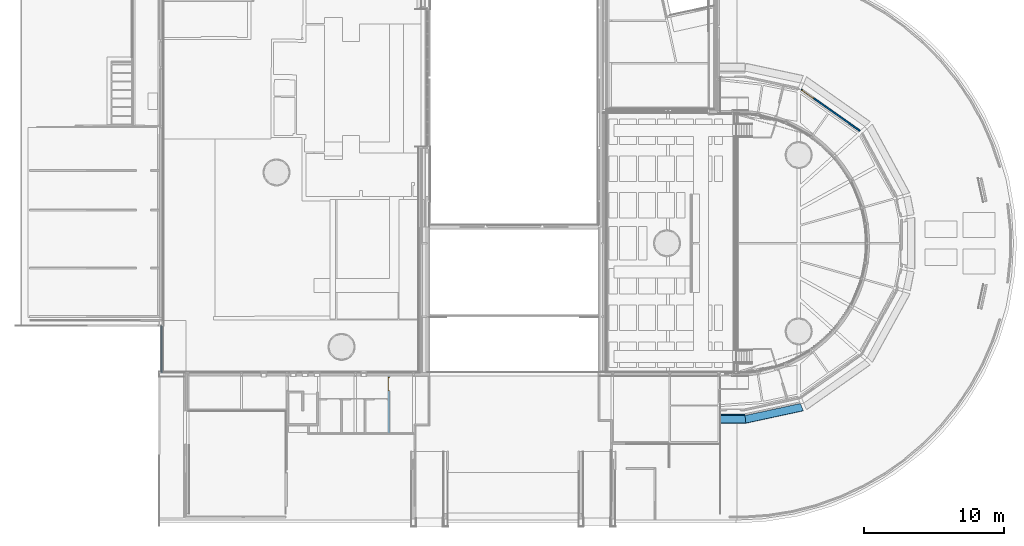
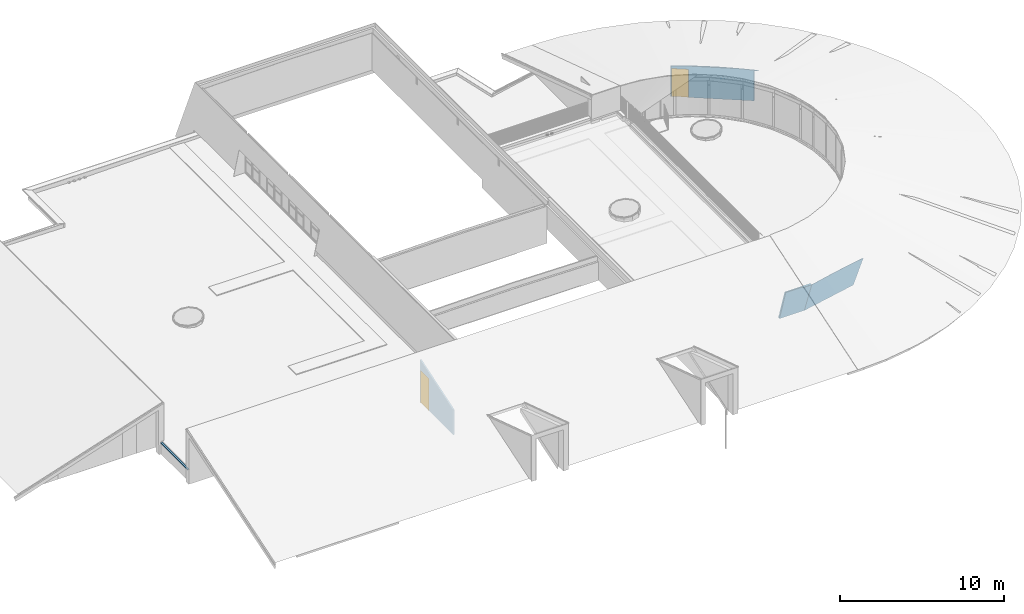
# One storey, part 48 of 66: 5 walls, 2 doors, 3 openings, plus 1 element that does not belong to this part.
"""IFC2X3 building model written with IfcOpenShell, lengths in millimetres."""

from ifc_helpers import new_model, entity, si_unit, converted_unit, derived_unit, direction, frame, frame_2d, origin, place, context, subcontext, project, spatial, rectangle, extrude, clip, halfspace, faceted_brep, source, transform, mapped, material, material_list, layer, layer_set, layer_usage, type_object, type_shapes, element, fill, save


model = new_model("IFC2X3")

# Units and contexts
model_context = context("Model", 3, precision=0.01, world=origin(), true_north=direction((6.12303176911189e-17, 1.0)))
body_context = subcontext(model_context, "Body", "Model", "MODEL_VIEW")
ifc_project = project(units=[si_unit("LENGTHUNIT", "METRE", prefix="MILLI"), si_unit("AREAUNIT", "SQUARE_METRE"), si_unit("VOLUMEUNIT", "CUBIC_METRE"), converted_unit("PLANEANGLEUNIT", "DEGREE", entity("IfcRatioMeasure", 0.0174532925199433), si_unit("PLANEANGLEUNIT", "RADIAN"), dimensions=[0, 0, 0, 0, 0, 0, 0]), si_unit("MASSUNIT", "GRAM", prefix="KILO"), derived_unit("MASSDENSITYUNIT", [(si_unit("MASSUNIT", "GRAM", prefix="KILO"), 1), (si_unit("LENGTHUNIT", "METRE"), -3)]), derived_unit("MOMENTOFINERTIAUNIT", [(si_unit("LENGTHUNIT", "METRE"), 4)]), si_unit("TIMEUNIT", "SECOND"), si_unit("FREQUENCYUNIT", "HERTZ"), si_unit("THERMODYNAMICTEMPERATUREUNIT", "DEGREE_CELSIUS"), derived_unit("THERMALTRANSMITTANCEUNIT", [(si_unit("MASSUNIT", "GRAM", prefix="KILO"), 1), (si_unit("THERMODYNAMICTEMPERATUREUNIT", "KELVIN"), -1), (si_unit("TIMEUNIT", "SECOND"), -3)]), derived_unit("VOLUMETRICFLOWRATEUNIT", [(si_unit("LENGTHUNIT", "METRE"), 3), (si_unit("TIMEUNIT", "SECOND"), -1)]), si_unit("ELECTRICCURRENTUNIT", "AMPERE"), si_unit("ELECTRICVOLTAGEUNIT", "VOLT"), si_unit("POWERUNIT", "WATT"), si_unit("FORCEUNIT", "NEWTON", prefix="KILO"), si_unit("ILLUMINANCEUNIT", "LUX"), si_unit("LUMINOUSFLUXUNIT", "LUMEN"), si_unit("LUMINOUSINTENSITYUNIT", "CANDELA"), derived_unit("USERDEFINED", [(si_unit("MASSUNIT", "GRAM", prefix="KILO"), -1), (si_unit("LENGTHUNIT", "METRE"), -2), (si_unit("TIMEUNIT", "SECOND"), 3), (si_unit("LUMINOUSFLUXUNIT", "LUMEN"), 1)]), derived_unit("LINEARVELOCITYUNIT", [(si_unit("LENGTHUNIT", "METRE"), 1), (si_unit("TIMEUNIT", "SECOND"), -1)]), si_unit("PRESSUREUNIT", "PASCAL"), derived_unit("USERDEFINED", [(si_unit("LENGTHUNIT", "METRE"), -2), (si_unit("MASSUNIT", "GRAM", prefix="KILO"), 1), (si_unit("TIMEUNIT", "SECOND"), -2)]), derived_unit("LINEARFORCEUNIT", [(si_unit("MASSUNIT", "GRAM", prefix="KILO"), 1), (si_unit("LENGTHUNIT", "METRE"), 1), (si_unit("TIMEUNIT", "SECOND"), -2), (si_unit("LENGTHUNIT", "METRE"), -1)]), derived_unit("PLANARFORCEUNIT", [(si_unit("MASSUNIT", "GRAM", prefix="KILO"), 1), (si_unit("LENGTHUNIT", "METRE"), 1), (si_unit("TIMEUNIT", "SECOND"), -2), (si_unit("LENGTHUNIT", "METRE"), -2)])], contexts=[model_context])

# Site, building, storey
site_placement = place(None, origin())
site = spatial("IfcSite", under=ifc_project, at=site_placement, Name="Default", CompositionType="ELEMENT")
building_placement = place(site_placement, origin())
building = spatial("IfcBuilding", under=site, at=building_placement, Name="-", CompositionType="ELEMENT")
storey_placement = place(building_placement, frame((0.0, 0.0, 3070.0)))
storey = spatial("IfcBuildingStorey", under=building, at=storey_placement, Name="01 eerste verdieping", CompositionType="ELEMENT", Elevation=3070.00000000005)

# Wall, openings, door
ifc_material_1 = material(Name="NLRS_f7_gipsplaat_gen")
ifc_layer_1 = layer(ifc_material_1, 12.5)
ifc_material_2 = material(Name="NLRS_m1_isolatie")
ifc_layer_2 = layer(ifc_material_2, 75.0)
ifc_layer_3 = layer(ifc_material_1, 12.5)
ifc_layer_set_1 = layer_set([ifc_layer_1, ifc_layer_2, ifc_layer_3], Name="Basic Wall:NLRS_21_WA_Metalstud 100mm")
ifc_layer_usage = layer_usage(ifc_layer_set_1, "AXIS2", "NEGATIVE", 50.0)
wall_type_1 = type_object("IfcWallType", Name="Basic Wall:NLRS_21_WA_Metalstud 100mm", PredefinedType="STANDARD", material=ifc_layer_set_1)
wall_1_placement = place(storey_placement, frame((25872.6948343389, 10159.624095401, 0.0), z_axis=(0.0, 0.0, 1.0), x_axis=(0.0, -1.0, 0.0)))
wall_1 = element("IfcWallStandardCase", 1, at=wall_1_placement, inside=storey, type_object=wall_type_1, material=ifc_layer_usage, Name="Basic Wall:NLRS_21_WA_Metalstud 100mm", ObjectType="Basic Wall:NLRS_21_WA_Metalstud 100mm", context=body_context, shape_type="Clipping", body=[
    clip(extrude(rectangle(XDim=4041.50000000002, YDim=100.000000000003, at=frame_2d((2020.75000000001, 1.4210854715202e-14), x_axis=(-1.0, 0.0))), origin(), (0.0, 0.0, 1.0), 3148.16764470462), halfspace(frame((0.0, -50.0, 3148.16764470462), z_axis=(0.309016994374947, 0.0, 0.951056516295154), x_axis=(0.0, 1.0, 0.0)), False)),
])
opening_1_placement = place(wall_1_placement, origin())
element("IfcOpeningElement", 2, at=opening_1_placement, cuts=wall_1, Name="Basic Wall:NLRS_21_WA_Metalstud 100mm", ObjectType="Opening", context=body_context, shape_type="SweptSolid", body=[
    extrude(rectangle(XDim=2462.00000000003, YDim=100.0, at=frame_2d((5.43565192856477e-13, 2.27373675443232e-13), x_axis=(0.0, 1.0))), frame((1650.0, -1084.0, 1161.0), z_axis=(0.0, 1.0, 0.0), x_axis=(-1.0, 0.0, 0.0)), (0.0, 0.0, 1.0), 1034.0),
])
opening_2_placement = place(wall_1_placement, frame((1079.50000000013, 50.0, -70.0)))
opening_2 = element("IfcOpeningElement", 3, at=opening_2_placement, cuts=wall_1, Name="AL_32.i_Binnenkozijn-enkeledeur_Linksdraaiend:Merk a.sp brandwerend:1", ObjectType="Opening", context=body_context, shape_type="SweptSolid", body=[
    extrude(rectangle(XDim=2462.00000000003, YDim=1017.99999999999, at=frame_2d((1231.00000000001, 508.999999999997), x_axis=(1.0, 0.0))), frame((0.0, 0.0, 0.0), z_axis=(0.0, -1.0, 0.0), x_axis=(0.0, 0.0, 1.0)), (0.0, 0.0, 1.0), 100.0),
])
ifc_material_3 = material(Name="NLRS_i3_hout_Loofhout (hardhout) RAL 9002")
ifc_material_4 = material(Name="<Unnamed>")
ifc_material_5 = material(Name="31_Glas")
ifc_material_list_1 = material_list([ifc_material_4, ifc_material_5, ifc_material_4, ifc_material_3])
door_style_1 = type_object("IfcDoorStyle", Name="AL_32.i_Binnenkozijn-enkeledeur_Linksdraaiend:Merk a.sp brandwerend", ConstructionType="NOTDEFINED", OperationType="SINGLE_SWING_LEFT", ParameterTakesPrecedence=False, Sizeable=False, material=ifc_material_list_1)
shared_shape_1 = source(origin(), body_context, "Body", "Brep", [
    faceted_brep([(966.0, 40.0, 95.0), (52.0, 40.0, 95.0), (52.0, 40.0, 2410.0), (966.0, 40.0, 2410.0), (966.0, 0.0, 95.0), (52.0, 0.0, 95.0), (52.0, 0.0, 2410.0), (966.0, 0.0, 2410.0)], [[[0, 1, 2, 3]], [[1, 0, 4, 5]], [[2, 1, 5, 6]], [[0, 3, 7, 4]], [[4, 7, 6, 5]], [[3, 2, 6, 7]]]),
    faceted_brep([(968.0, -7.0, 70.0), (968.0, 42.0, 70.0), (951.0, 42.0, 70.0), (951.0, 107.0, 70.0), (1018.0, 107.0, 70.0), (1018.0, 77.0, 70.0), (1009.0, 77.0, 70.0), (1009.0, 23.0, 70.0), (1018.0, 23.0, 70.0), (1018.0, -7.0, 70.0), (968.0, -7.0, 2412.0), (968.0, 42.0, 2412.0), (50.0, 42.0, 2412.0), (50.0, 42.0, 70.0), (67.0, 42.0, 70.0), (67.0, 42.0, 2395.0), (951.0, 42.0, 2395.0), (951.0, 107.0, 2395.0), (67.0, 107.0, 2395.0), (67.0, 107.0, 70.0), (0.0, 107.0, 70.0), (0.0, 107.0, 2462.0), (1018.0, 107.0, 2462.0), (1018.0, 77.0, 2462.0), (0.0, 77.0, 2462.0), (0.0, 77.0, 70.0), (9.0, 77.0, 70.0), (9.0, 77.0, 2453.0), (1009.0, 77.0, 2453.0), (1009.0, 23.0, 2453.0), (9.0, 23.0, 2453.0), (9.0, 23.0, 70.0), (0.0, 23.0, 70.0), (0.0, 23.0, 2462.0), (1018.0, 23.0, 2462.0), (1018.0, -7.0, 2462.0), (0.0, -7.0, 2462.0), (0.0, -7.0, 70.0), (50.0, -7.0, 70.0), (50.0, -7.0, 2412.0)], [[[0, 1, 2, 3, 4, 5, 6, 7, 8, 9]], [[1, 0, 10, 11]], [[2, 1, 11, 12, 13, 14, 15, 16]], [[3, 2, 16, 17]], [[4, 3, 17, 18, 19, 20, 21, 22]], [[5, 4, 22, 23]], [[6, 5, 23, 24, 25, 26, 27, 28]], [[7, 6, 28, 29]], [[8, 7, 29, 30, 31, 32, 33, 34]], [[9, 8, 34, 35]], [[0, 9, 35, 36, 37, 38, 39, 10]], [[38, 37, 32, 31, 26, 25, 20, 19, 14, 13]], [[36, 33, 32, 37]], [[30, 27, 26, 31]], [[24, 21, 20, 25]], [[18, 15, 14, 19]], [[12, 39, 38, 13]], [[17, 16, 15, 18]], [[23, 22, 21, 24]], [[35, 34, 33, 36]], [[11, 10, 39, 12]], [[29, 28, 27, 30]]]),
])
type_shapes(door_style_1, [shared_shape_1])
door_1_placement = place(opening_2_placement, frame((-1018.0, -100.0, 0.0)))
door_1 = element("IfcDoor", 4, at=door_1_placement, inside=storey, type_object=door_style_1, material=ifc_material_3, Name="AL_32.i_Binnenkozijn-enkeledeur_Linksdraaiend:Merk a.sp brandwerend", ObjectType="AL_32.i_Binnenkozijn-enkeledeur_Linksdraaiend:Merk a.sp brandwerend", OverallHeight=2462.00000000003, OverallWidth=1018.0, context=body_context, shape_type="MappedRepresentation", body=[
    mapped(shared_shape_1, transform((0.0, 0.0, 0.0), scale=1.0)),
])
fill(opening_2, door_1)

# Wall, opening, door
wall_2_placement = place(storey_placement, frame((55228.6633531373, 30574.312870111, 100.0), z_axis=(0.0, 0.0, 1.0), x_axis=(0.817056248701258, -0.576557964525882, 0.0)))
wall_2 = element("IfcWall", 5, at=wall_2_placement, inside=storey, type_object=wall_type_1, Name="Basic Wall:NLRS_21_WA_Metalstud 100mm", ObjectType="Basic Wall:NLRS_21_WA_Metalstud 100mm", context=body_context, shape_type="Brep", body=[
    faceted_brep([(5114.58053842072, -50.0, 0.0), (1096.76009486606, -50.0, 0.0), (1096.76009486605, 50.0, 0.0), (5137.62813281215, 50.0, 0.0), (62.7600948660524, -50.0, 0.0), (24.8491400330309, -50.0, 0.0), (1.723089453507, 50.0, 0.0), (62.7600948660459, 50.0, 0.0), (3286.97250102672, 36.6259947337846, 2336.06384800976), (3426.71931756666, 28.6295193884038, 2336.06384800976), (3500.30518781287, 50.0, 2322.50727222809), (3276.77644069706, 50.0, 2329.28556011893), (3053.24769358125, 50.0, 2336.06384800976), (3890.8650110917, 50.0, 2310.66393236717), (3798.68176493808, -10.6852403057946, 2336.06384800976), (4170.64421230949, -50.0, 2336.06384800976), (4453.2831535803, -50.0, 2321.31567404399), (4735.92209485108, -50.0, 2306.56750007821), (4281.42483437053, 50.0, 2298.82059250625), (4772.04443683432, 50.0, 2269.28134697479), (5300.70005098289, -50.0, 2268.57281640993), (5382.86838145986, -50.0, 2262.3493271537), (5330.10915461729, 16.6711010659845, 2245.29138279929), (5018.31107291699, -50.0, 2287.57015824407), (5262.66403929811, 50.0, 2239.74210144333), (5465.02630590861, -50.0, 2255.95235038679), (62.7600948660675, -50.0, 2092.0), (1096.76009486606, -50.0, 2092.0), (5114.58053842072, -50.0, 2230.6035447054), (5465.02630590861, -50.0, 2230.6035447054), (977.824035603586, -50.0, 2336.06384800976), (434.407815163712, -50.0, 2307.86837401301), (186.962887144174, -50.0, 2291.78879470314), (93.481443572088, -50.0, 2285.71414084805), (46.7407217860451, -50.0, 2282.6768139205), (23.3703608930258, -50.0, 2281.15815045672), (11.6851804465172, -50.0, 2280.39881872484), (0.0, -50.0, 2279.63948699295), (24.8491400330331, -50.0, 2279.63948699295), (5137.62813281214, 50.0, 2230.6035447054), (1096.76009486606, 50.0, 2092.0), (62.760094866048, 50.0, 2092.0), (1.72308945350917, 50.0, 2248.04060948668), (200.324541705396, 50.0, 2258.90412835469), (398.925993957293, 50.0, 2269.7676472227), (582.951126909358, 50.0, 2279.83383999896), (1164.17916436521, 50.0, 2311.62707051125), (1405.38812349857, 50.0, 2317.95801318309), (1646.59708263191, 50.0, 2324.28895585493), (2095.22055433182, 50.0, 2336.06384800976), (5262.66403929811, 50.0, 2230.6035447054), (1628.06774315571, 15.7397319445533, 2336.06384800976), (1349.1554832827, -4.71526384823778, 2336.06384800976), (23.6362438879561, -44.755281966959, 2279.63948699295), (11.81678009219, -47.371593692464, 2279.63948699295), (12.6796669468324, 2.62235782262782, 2263.84005180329)], [[[0, 1, 2, 3]], [[4, 5, 6, 7]], [[8, 9, 10, 11, 12]], [[13, 14, 15]], [[16, 17, 18, 15]], [[18, 17, 19]], [[9, 14, 10]], [[20, 21, 22]], [[19, 17, 23, 20]], [[22, 24, 20]], [[25, 22, 21]], [[24, 19, 20]], [[10, 14, 13]], [[15, 18, 13]], [[5, 4, 26, 27, 1, 0, 28, 29, 25, 21, 20, 23, 17, 16, 15, 30, 31, 32, 33, 34, 35, 36, 37, 38]], [[39, 3, 2, 40, 41, 7, 6, 42, 43, 44, 45, 46, 47, 48, 49, 12, 11, 10, 13, 18, 19, 24, 50]], [[30, 15, 14, 9, 8, 12, 49, 51, 52]], [[51, 49, 48, 47, 46, 52]], [[36, 53, 54]], [[44, 33, 32]], [[31, 46, 45]], [[44, 32, 45]], [[44, 43, 33]], [[32, 31, 45]], [[53, 33, 43]], [[30, 52, 46]], [[30, 46, 31]], [[34, 33, 53, 36, 35]], [[42, 55, 43]], [[53, 43, 55]], [[54, 37, 36]], [[50, 29, 28, 39]], [[0, 3, 39, 28]], [[25, 29, 50, 24, 22]], [[38, 37, 54, 53]], [[53, 55, 42, 6, 5, 38]], [[4, 7, 41, 26]], [[26, 41, 40, 27]], [[27, 40, 2, 1]]]),
])
opening_3_placement = place(wall_2_placement, frame((1096.76009486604, 50.0, -50.0)))
opening_3 = element("IfcOpeningElement", 6, at=opening_3_placement, cuts=wall_2, Name="AL_32.i_Binnenkozijn-enkeledeur_Linksdraaiend:Merk a.sp (2000mm hoog):1", ObjectType="Opening", context=body_context, shape_type="SweptSolid", body=[
    extrude(rectangle(XDim=2142.00000000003, YDim=1034.0, at=frame_2d((1071.00000000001, 516.999999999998), x_axis=(1.0, 0.0))), frame((0.0, 0.0, 0.0), z_axis=(0.0, -1.0, 0.0), x_axis=(0.0, 0.0, 1.0)), (0.0, 0.0, 1.0), 100.0),
])
ifc_material_list_2 = material_list([ifc_material_4, ifc_material_5, ifc_material_4, ifc_material_3])
door_style_2 = type_object("IfcDoorStyle", Name="AL_32.i_Binnenkozijn-enkeledeur_Linksdraaiend:Merk a.sp (2000mm hoog)", ConstructionType="NOTDEFINED", OperationType="SINGLE_SWING_LEFT", ParameterTakesPrecedence=False, Sizeable=False, material=ifc_material_list_2)
shared_shape_2 = source(origin(), body_context, "Body", "Brep", [
    faceted_brep([(982.0, 40.0, 75.0), (52.0, 40.0, 75.0), (52.0, 40.0, 2090.0), (982.0, 40.0, 2090.0), (982.0, 0.0, 75.0), (52.0, 0.0, 75.0), (52.0, 0.0, 2090.0), (982.0, 0.0, 2090.0)], [[[0, 1, 2, 3]], [[1, 0, 4, 5]], [[2, 1, 5, 6]], [[0, 3, 7, 4]], [[4, 7, 6, 5]], [[3, 2, 6, 7]]]),
    faceted_brep([(984.0, -7.0, 50.0), (984.0, 42.0, 50.0), (967.0, 42.0, 50.0), (967.0, 107.0, 50.0), (1034.0, 107.0, 50.0), (1034.0, 77.0, 50.0), (1025.0, 77.0, 50.0), (1025.0, 23.0, 50.0), (1034.0, 23.0, 50.0), (1034.0, -7.0, 50.0), (984.0, -7.0, 2092.0), (984.0, 42.0, 2092.0), (50.0, 42.0, 2092.0), (50.0, 42.0, 50.0), (67.0, 42.0, 50.0), (67.0, 42.0, 2075.0), (967.0, 42.0, 2075.0), (967.0, 107.0, 2075.0), (67.0, 107.0, 2075.0), (67.0, 107.0, 50.0), (0.0, 107.0, 50.0), (0.0, 107.0, 2142.0), (1034.0, 107.0, 2142.0), (1034.0, 77.0, 2142.0), (0.0, 77.0, 2142.0), (0.0, 77.0, 50.0), (9.0, 77.0, 50.0), (9.0, 77.0, 2133.0), (1025.0, 77.0, 2133.0), (1025.0, 23.0, 2133.0), (9.0, 23.0, 2133.0), (9.0, 23.0, 50.0), (0.0, 23.0, 50.0), (0.0, 23.0, 2142.0), (1034.0, 23.0, 2142.0), (1034.0, -7.0, 2142.0), (0.0, -7.0, 2142.0), (0.0, -7.0, 50.0), (50.0, -7.0, 50.0), (50.0, -7.0, 2092.0)], [[[0, 1, 2, 3, 4, 5, 6, 7, 8, 9]], [[1, 0, 10, 11]], [[2, 1, 11, 12, 13, 14, 15, 16]], [[3, 2, 16, 17]], [[4, 3, 17, 18, 19, 20, 21, 22]], [[5, 4, 22, 23]], [[6, 5, 23, 24, 25, 26, 27, 28]], [[7, 6, 28, 29]], [[8, 7, 29, 30, 31, 32, 33, 34]], [[9, 8, 34, 35]], [[0, 9, 35, 36, 37, 38, 39, 10]], [[38, 37, 32, 31, 26, 25, 20, 19, 14, 13]], [[36, 33, 32, 37]], [[30, 27, 26, 31]], [[24, 21, 20, 25]], [[18, 15, 14, 19]], [[12, 39, 38, 13]], [[17, 16, 15, 18]], [[23, 22, 21, 24]], [[35, 34, 33, 36]], [[11, 10, 39, 12]], [[29, 28, 27, 30]]]),
])
type_shapes(door_style_2, [shared_shape_2])
door_2_placement = place(opening_3_placement, frame((-1034.0, -100.0, 0.0)))
door_2 = element("IfcDoor", 7, at=door_2_placement, inside=storey, type_object=door_style_2, material=ifc_material_3, Name="AL_32.i_Binnenkozijn-enkeledeur_Linksdraaiend:Merk a.sp (2000mm hoog)", ObjectType="AL_32.i_Binnenkozijn-enkeledeur_Linksdraaiend:Merk a.sp (2000mm hoog)", OverallHeight=2142.00000000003, OverallWidth=1034.0, context=body_context, shape_type="MappedRepresentation", body=[
    mapped(shared_shape_2, transform((0.0, 0.0, 0.0), scale=1.0)),
])
fill(opening_3, door_2)

# Walls
ifc_layer_4 = layer(ifc_material_1, 12.5)
ifc_layer_5 = layer(ifc_material_2, 89.0)
ifc_layer_6 = layer(ifc_material_1, 12.5)
ifc_layer_set_2 = layer_set([ifc_layer_4, ifc_layer_5, ifc_layer_6], Name="Basic Wall:NLRS_21_WA_HSB-wand_114mm")
wall_type_2 = type_object("IfcWallType", Name="Basic Wall:NLRS_21_WA_HSB-wand_114mm", PredefinedType="STANDARD", material=ifc_layer_set_2)
wall_3_placement = place(storey_placement, frame((49481.6203901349, 7292.12015017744, -370.0)))
element("IfcWall", 8, at=wall_3_placement, inside=storey, type_object=wall_type_2, Name="Basic Wall:NLRS_21_WA_HSB-wand_114mm", ObjectType="Basic Wall:NLRS_21_WA_HSB-wand_114mm", context=body_context, shape_type="Brep", body=[
    faceted_brep([(0.0, 180.153634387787, 0.0), (0.0, 88.8511997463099, 281.0), (1750.72644810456, 88.8511997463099, 281.0), (1740.97557227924, 180.153634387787, 0.0), (0.0, 33.2899316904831, 452.0), (0.0, -597.190774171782, 2392.42008893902), (1164.2191436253, -597.190774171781, 2392.42008893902), (1164.2191436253, -597.872358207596, 2394.51778890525), (1530.71611206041, -597.378087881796, 2392.99658126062), (1823.89557895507, -596.268773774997, 2389.58246349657), (1756.66025510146, 33.289931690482, 452.0), (0.0, 60.2869408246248, 0.0), (1753.77704081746, 60.2869408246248, 0.0), (1835.47002407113, -704.646219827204, 2354.22219557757), (1462.56269140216, -705.968267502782, 2358.29103994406), (1164.2191436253, -706.29280108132, 2359.28985159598), (1164.2191436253, -705.611217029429, 2357.19215158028), (0.0, -705.611217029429, 2357.19215158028), (0.0, 5.0971845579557, 452.0), (0.0, 5.0971845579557, 281.0), (1759.67117126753, 5.09718455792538, 281.0), (1759.67117126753, 5.09718455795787, 452.0), (1829.6827995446, -650.457478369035, 2371.90244862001), (1164.2191436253, -652.082579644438, 2376.90382025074)], [[[0, 1, 2, 3]], [[4, 5, 6, 7, 8, 9, 10]], [[11, 12, 13, 14, 15, 16, 17]], [[11, 0, 3, 12]], [[17, 5, 4, 18, 19, 1, 0, 11]], [[13, 12, 3, 2, 20, 21, 10, 9, 22]], [[5, 17, 16, 6]], [[23, 7, 6, 16, 15]], [[18, 21, 20, 19]], [[18, 4, 10, 21]], [[2, 1, 19, 20]], [[9, 8, 22]], [[14, 13, 22]], [[22, 8, 14]], [[23, 14, 8]], [[15, 14, 23]], [[23, 8, 7]]]),
])
ifc_material_6 = material(Name="NLRS_Akoestisch paneel RAL 9010")
ifc_layer_7 = layer(ifc_material_6, 18.0)
ifc_layer_set_3 = layer_set([ifc_layer_7], Name="Basic Wall:NLRS_42_WA_Akoestische panelen")
wall_type_3 = type_object("IfcWallType", Name="Basic Wall:NLRS_42_WA_Akoestische panelen", PredefinedType="STANDARD", material=ifc_layer_set_3)
wall_4_placement = place(storey_placement, frame((49481.6203901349, 7222.72364337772, -370.0)))
element("IfcWall", 9, at=wall_4_placement, inside=storey, type_object=wall_type_3, Name="Basic Wall:NLRS_42_WA_Akoestische panelen", ObjectType="Basic Wall:NLRS_42_WA_Akoestische panelen", context=body_context, shape_type="Brep", body=[
    faceted_brep([(0.0, -675.5485372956, 2420.0), (0.0, 110.757127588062, 0.0), (1755.12016813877, 110.757127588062, 0.0), (1836.6197639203, -652.365247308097, 2348.649170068), (1624.59501988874, -653.117227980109, 2350.96352860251), (1463.073729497, -653.690089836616, 2352.72661610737), (1164.2191436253, -654.01531157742, 2353.72754570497), (1164.2191436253, -675.5485372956, 2420.0), (0.0, 129.683447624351, 0.0), (0.0, -656.622217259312, 2420.0), (1164.2191436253, -656.622217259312, 2420.0), (1164.2191436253, -636.896294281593, 2359.28985159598), (1536.77029731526, -636.38977770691, 2357.73095387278), (1834.79222203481, -635.253038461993, 2354.23243021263), (1753.09888363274, 129.683447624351, 0.0), (1164.2191436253, -645.455802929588, 2356.50869865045), (1835.70599306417, -643.809143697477, 2351.44080265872)], [[[0, 1, 2, 3, 4, 5, 6, 7]], [[8, 9, 10, 11, 12, 13, 14]], [[1, 8, 14, 2]], [[9, 0, 7, 10]], [[1, 0, 9, 8]], [[10, 7, 6, 15, 11]], [[13, 5, 4]], [[4, 3, 16]], [[5, 13, 12]], [[15, 5, 12]], [[13, 4, 16]], [[6, 5, 15]], [[15, 12, 11]], [[16, 3, 2, 14, 13]]]),
])
wall_5_placement = place(storey_placement, frame((51180.4695137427, 7208.01007729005, -370.0), z_axis=(0.0, 0.0, 1.0), x_axis=(0.977445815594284, 0.211186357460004, 0.0)))
element("IfcWall", 10, at=wall_5_placement, inside=storey, type_object=wall_type_3, Name="Basic Wall:NLRS_42_WA_Akoestische panelen", ObjectType="Basic Wall:NLRS_42_WA_Akoestische panelen", context=body_context, shape_type="Brep", body=[
    faceted_brep([(81.4995957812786, 110.757127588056, 0.0), (4117.15177908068, 110.757127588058, 0.0), (4251.50109946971, -651.518937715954, 2346.04449696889), (4203.8464149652, -652.188613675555, 2348.10554764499), (4156.19173046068, -652.858289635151, 2350.16659832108), (4060.88236145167, -654.197641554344, 2354.28869967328), (3920.1402448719, -656.175445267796, 2360.37575360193), (3849.76918658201, -657.16434712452, 2363.41928056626), (3779.39812829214, -658.153248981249, 2366.46280753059), (3661.32121430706, -659.408556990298, 2370.32624832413), (3543.244300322, -660.66386499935, 2374.18968911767), (3425.16738633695, -661.919173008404, 2378.05312991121), (3307.09047235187, -663.174481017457, 2381.91657070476), (3070.86089744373, -664.86937864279, 2387.13292922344), (2834.6313225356, -666.564276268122, 2392.34928774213), (2362.07833733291, -668.310048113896, 2397.72222101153), (1889.4910378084, -668.405254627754, 2398.01523653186), (1416.93112348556, -666.849538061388, 2393.22723326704), (1180.69443195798, -665.249133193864, 2388.30169355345), (944.457740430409, -663.64872832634, 2383.37615383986), (826.375492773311, -662.440226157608, 2379.65676661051), (708.293245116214, -661.231723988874, 2375.93737938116), (590.210997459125, -660.023221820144, 2372.21799215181), (472.128749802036, -658.814719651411, 2368.49860492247), (402.292909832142, -657.860733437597, 2365.56253725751), (332.457069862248, -656.906747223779, 2362.62646959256), (192.78538992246, -654.998774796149, 2356.75433426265), (96.3926949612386, -653.682011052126, 2352.70175216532), (48.1963474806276, -653.023629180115, 2350.67546111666), (0.0, -652.365247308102, 2348.649170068), (83.5208802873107, 129.683447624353, 0.0), (1.82754188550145, -635.253038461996, 2354.23243021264), (119.725245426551, -636.864345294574, 2359.19152272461), (237.6229489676, -638.475652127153, 2364.15061523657), (355.520652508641, -640.086958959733, 2369.10970774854), (473.418356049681, -641.698265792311, 2374.06880026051), (591.366115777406, -642.906100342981, 2377.78613277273), (709.313875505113, -644.113934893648, 2381.50346528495), (827.26163523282, -645.321769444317, 2385.22079779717), (945.209394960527, -646.529603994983, 2388.93813030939), (1181.17709915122, -648.129462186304, 2393.86198752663), (1417.14480334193, -649.729320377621, 2398.78584474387), (1889.16671010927, -651.285520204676, 2403.57533533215), (2361.21601163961, -651.192370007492, 2403.28864850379), (2833.23128513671, -649.4502191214, 2397.92685940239), (3069.19196764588, -647.757909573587, 2392.71846616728), (3305.15265015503, -646.06560002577, 2387.51007293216), (3423.09512133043, -644.811971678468, 2383.65180160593), (3541.03759250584, -643.558343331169, 2379.7935302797), (3658.98006368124, -642.304714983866, 2375.93525895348), (3776.92253485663, -641.051086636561, 2372.07698762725), (3894.81398520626, -639.394568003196, 2366.97874750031), (4012.7054355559, -637.738049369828, 2361.88050737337), (4130.59688590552, -636.081530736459, 2356.78226724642), (4248.48833625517, -634.42501210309, 2351.68402711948), (4113.81606076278, 129.683447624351, 0.0), (4249.99471786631, -642.971974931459, 2348.86426211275), (0.913770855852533, -643.809143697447, 2351.44080265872)], [[[0, 1, 2, 3, 4, 5, 6, 7, 8, 9, 10, 11, 12, 13, 14, 15, 16, 17, 18, 19, 20, 21, 22, 23, 24, 25, 26, 27, 28, 29]], [[30, 31, 32, 33, 34, 35, 36, 37, 38, 39, 40, 41, 42, 43, 44, 45, 46, 47, 48, 49, 50, 51, 52, 53, 54, 55]], [[0, 30, 55, 1]], [[46, 13, 12]], [[45, 14, 13]], [[44, 43, 15]], [[49, 10, 9]], [[15, 43, 16]], [[44, 15, 14]], [[4, 3, 54]], [[14, 45, 44]], [[3, 2, 56]], [[19, 39, 38]], [[23, 35, 34]], [[50, 8, 51]], [[49, 9, 50]], [[5, 52, 6]], [[11, 48, 47]], [[4, 54, 53]], [[48, 11, 10]], [[10, 49, 48]], [[21, 37, 36]], [[6, 51, 8, 7]], [[16, 42, 41]], [[42, 16, 43]], [[40, 39, 18]], [[41, 17, 16]], [[35, 23, 22]], [[40, 17, 41]], [[50, 9, 8]], [[39, 19, 18]], [[20, 37, 21]], [[36, 35, 22]], [[31, 27, 32]], [[5, 53, 52]], [[13, 46, 45]], [[33, 25, 34]], [[31, 57, 28]], [[38, 20, 19]], [[34, 25, 24, 23]], [[12, 47, 46]], [[28, 27, 31]], [[26, 32, 27]], [[4, 53, 5]], [[17, 40, 18]], [[21, 36, 22]], [[26, 33, 32]], [[57, 29, 28]], [[54, 3, 56]], [[33, 26, 25]], [[51, 6, 52]], [[47, 12, 11]], [[37, 20, 38]], [[30, 0, 29, 57, 31]], [[54, 56, 2, 1, 55]]]),
])
ifc_material_7 = material(Name="AL_Aluminium zwart 2")
wall_type_4 = type_object("IfcWallType", Name="Daktrim5:Daktrim", PredefinedType="NOTDEFINED", material=ifc_material_7)
wall_6_placement = place(storey_placement, frame((9617.0, 10395.6240954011, 427.0), z_axis=(0.0, 0.0, 1.0), x_axis=(0.0, 1.0, 0.0)))
element("IfcWall", 11, at=wall_6_placement, inside=storey, type_object=wall_type_4, material=ifc_material_7, Name="Daktrim5:Daktrim", ObjectType="Daktrim5:Daktrim", context=body_context, shape_type="Brep", body=[
    faceted_brep([(0.0, 0.0, 0.0), (0.0, -2.96530981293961, 0.0), (0.0, -10.2148434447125, 6.0821522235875), (0.0, -9.57173887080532, 6.84793074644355), (0.0, -2.60138215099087, 1.0), (0.0, -0.999999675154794, 1.0), (0.0, -0.999999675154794, 67.0), (0.0, -9.0, 67.0), (0.0, -9.0, 63.5253906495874), (0.0, -10.0, 63.5253906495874), (0.0, -10.0, 67.0), (0.0, -108.999999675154, 67.0), (0.0, -108.999999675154, 68.3496093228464), (0.0, -1.0, 68.3496093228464), (0.0, -1.0, 79.0), (0.0, -10.0, 79.0), (0.0, -10.0, 80.0), (0.0, 0.0, 80.0), (3333.19287551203, 0.0, 0.0), (3333.19287551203, 0.0, 80.0), (3333.19287551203, -10.0, 80.0), (3333.19287551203, -10.0, 79.0), (3333.19287551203, -1.0, 79.0), (3333.19287551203, -1.0, 68.3496093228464), (3333.19287551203, -108.999999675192, 68.3496093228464), (3333.19287551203, -108.999999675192, 67.0), (3333.19287551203, -10.0, 67.0), (3333.19287551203, -10.0, 63.5253906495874), (3333.19287551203, -9.0, 63.5253906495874), (3333.19287551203, -9.0, 67.0), (3333.19287551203, -0.999999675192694, 67.0), (3333.19287551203, -0.999999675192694, 1.0), (3333.19287551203, -2.60138215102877, 1.0), (3333.19287551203, -9.57173887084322, 6.84793074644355), (3333.19287551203, -10.2148434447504, 6.0821522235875), (3333.19287551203, -2.96530981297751, 0.0)], [[[0, 1, 2, 3, 4, 5, 6, 7, 8, 9, 10, 11, 12, 13, 14, 15, 16, 17]], [[18, 19, 20, 21, 22, 23, 24, 25, 26, 27, 28, 29, 30, 31, 32, 33, 34, 35]], [[2, 1, 35, 34]], [[3, 2, 34, 33]], [[4, 3, 33, 32]], [[6, 5, 31, 30]], [[8, 7, 29, 28]], [[10, 9, 27, 26]], [[12, 11, 25, 24]], [[14, 13, 23, 22]], [[16, 15, 21, 20]], [[0, 17, 19, 18]], [[1, 0, 18, 35]], [[5, 4, 32, 31]], [[7, 6, 30, 29]], [[9, 8, 28, 27]], [[11, 10, 26, 25]], [[13, 12, 24, 23]], [[15, 14, 22, 21]], [[17, 16, 20, 19]]]),
])

save(model, "model.ifc")
